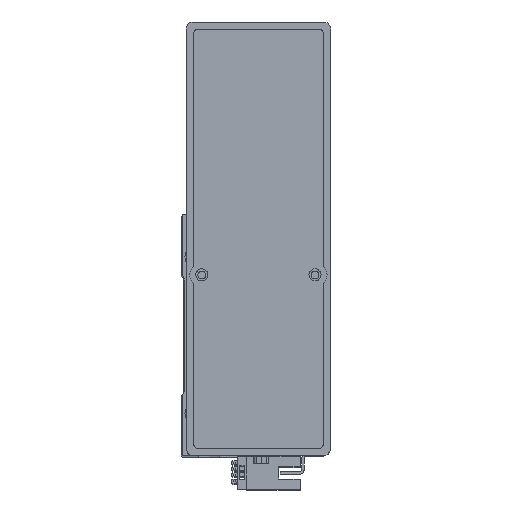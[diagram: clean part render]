
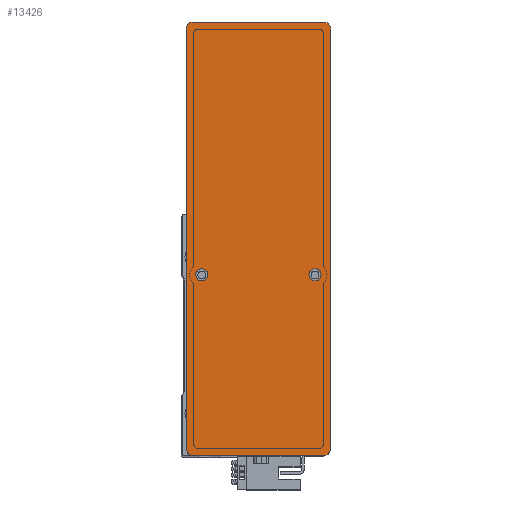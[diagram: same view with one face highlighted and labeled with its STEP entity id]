
A CAD part, top view. The second image highlights one B-rep face of the part: STEP entity #13426.
In plain terms, the highlighted planar face has unit normal (0, 0, 1) as drawn and (0, 0, -1) by its records, which use the part's own axes.
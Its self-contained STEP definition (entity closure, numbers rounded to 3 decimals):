
#407 = DIRECTION ( 'NONE',  ( 0., 0., -1. ) ) ;
#542 = ORIENTED_EDGE ( 'NONE', *, *, #7757, .T. ) ;
#697 = ORIENTED_EDGE ( 'NONE', *, *, #37375, .F. ) ;
#1241 = ORIENTED_EDGE ( 'NONE', *, *, #17682, .T. ) ;
#1278 = VERTEX_POINT ( 'NONE', #8689 ) ;
#1580 = LINE ( 'NONE', #23183, #33185 ) ;
#1634 = DIRECTION ( 'NONE',  ( 1., 0., 0. ) ) ;
#2087 = EDGE_CURVE ( 'NONE', #32759, #12666, #37272, .T. ) ;
#3986 = VERTEX_POINT ( 'NONE', #22451 ) ;
#4380 = ORIENTED_EDGE ( 'NONE', *, *, #8549, .F. ) ;
#5313 = VERTEX_POINT ( 'NONE', #18365 ) ;
#5511 = CIRCLE ( 'NONE', #6718, 3. ) ;
#5522 = CIRCLE ( 'NONE', #12447, 2.5 ) ;
#5657 = AXIS2_PLACEMENT_3D ( 'NONE', #11796, #17976, #39407 ) ;
#5842 = AXIS2_PLACEMENT_3D ( 'NONE', #36189, #17880, #39319 ) ;
#6167 = CARTESIAN_POINT ( 'NONE',  ( -15., 23.5, 0. ) ) ;
#6318 = AXIS2_PLACEMENT_3D ( 'NONE', #18179, #39588, #21230 ) ;
#6662 = EDGE_LOOP ( 'NONE', ( #697, #10089 ) ) ;
#6718 = AXIS2_PLACEMENT_3D ( 'NONE', #14204, #35607, #17275 ) ;
#6758 = VECTOR ( 'NONE', #14760, 1000. ) ;
#7222 = EDGE_CURVE ( 'NONE', #1278, #15143, #1580, .T. ) ;
#7757 = EDGE_CURVE ( 'NONE', #7857, #12770, #12104, .T. ) ;
#7826 = AXIS2_PLACEMENT_3D ( 'NONE', #27528, #9182, #30648 ) ;
#7833 = LINE ( 'NONE', #33987, #38529 ) ;
#7857 = VERTEX_POINT ( 'NONE', #13724 ) ;
#7959 = VERTEX_POINT ( 'NONE', #15046 ) ;
#8549 = EDGE_CURVE ( 'NONE', #5313, #22452, #34804, .T. ) ;
#8600 = EDGE_CURVE ( 'NONE', #28177, #15143, #20911, .T. ) ;
#8689 = CARTESIAN_POINT ( 'NONE',  ( 90., -27., 0. ) ) ;
#8986 = CARTESIAN_POINT ( 'NONE',  ( 90., 27., 0. ) ) ;
#9182 = DIRECTION ( 'NONE',  ( 0., 0., -1. ) ) ;
#9216 = DIRECTION ( 'NONE',  ( -1., 0., 0. ) ) ;
#9731 = EDGE_CURVE ( 'NONE', #27647, #7959, #14447, .T. ) ;
#9814 = ORIENTED_EDGE ( 'NONE', *, *, #24100, .F. ) ;
#10089 = ORIENTED_EDGE ( 'NONE', *, *, #9731, .F. ) ;
#10853 = CIRCLE ( 'NONE', #5842, 2.5 ) ;
#10939 = CARTESIAN_POINT ( 'NONE',  ( 87., 30., 0. ) ) ;
#11796 = CARTESIAN_POINT ( 'NONE',  ( 0., 0., 0. ) ) ;
#11909 = FACE_BOUND ( 'NONE', #22631, .T. ) ;
#12104 = CIRCLE ( 'NONE', #28726, 3. ) ;
#12447 = AXIS2_PLACEMENT_3D ( 'NONE', #16820, #38256, #19906 ) ;
#12666 = VERTEX_POINT ( 'NONE', #17470 ) ;
#12770 = VERTEX_POINT ( 'NONE', #20818 ) ;
#13426 = ADVANCED_FACE ( 'NONE', ( #11909, #37286, #27208 ), #30159, .F. ) ;
#13724 = CARTESIAN_POINT ( 'NONE',  ( -90., 27., 0. ) ) ;
#13841 = ORIENTED_EDGE ( 'NONE', *, *, #32598, .F. ) ;
#14204 = CARTESIAN_POINT ( 'NONE',  ( 87., -27., 0. ) ) ;
#14447 = CIRCLE ( 'NONE', #7826, 2.5 ) ;
#14760 = DIRECTION ( 'NONE',  ( 0., -1., 0. ) ) ;
#15046 = CARTESIAN_POINT ( 'NONE',  ( -17.5, -23.5, 0. ) ) ;
#15143 = VERTEX_POINT ( 'NONE', #8986 ) ;
#15436 = CARTESIAN_POINT ( 'NONE',  ( 90., 30., 0. ) ) ;
#15668 = ORIENTED_EDGE ( 'NONE', *, *, #7222, .F. ) ;
#16820 = CARTESIAN_POINT ( 'NONE',  ( -15., -23.5, 0. ) ) ;
#17275 = DIRECTION ( 'NONE',  ( 1., 0., 0. ) ) ;
#17306 = EDGE_CURVE ( 'NONE', #22452, #5313, #10853, .T. ) ;
#17470 = CARTESIAN_POINT ( 'NONE',  ( -90., -27., 0. ) ) ;
#17550 = CARTESIAN_POINT ( 'NONE',  ( -17.5, 23.5, 0. ) ) ;
#17682 = EDGE_CURVE ( 'NONE', #1278, #3986, #5511, .T. ) ;
#17880 = DIRECTION ( 'NONE',  ( 0., 0., -1. ) ) ;
#17976 = DIRECTION ( 'NONE',  ( 0., 0., 1. ) ) ;
#18005 = EDGE_LOOP ( 'NONE', ( #15668, #1241, #13841, #37649, #9814, #542, #36620, #30703 ) ) ;
#18179 = CARTESIAN_POINT ( 'NONE',  ( -87., -27., 0. ) ) ;
#18365 = CARTESIAN_POINT ( 'NONE',  ( -12.5, 23.5, 0. ) ) ;
#18508 = DIRECTION ( 'NONE',  ( -1., 0., 0. ) ) ;
#18756 = CARTESIAN_POINT ( 'NONE',  ( 87., 27., 0. ) ) ;
#18825 = AXIS2_PLACEMENT_3D ( 'NONE', #18756, #407, #21783 ) ;
#19906 = DIRECTION ( 'NONE',  ( -1., 0., 0. ) ) ;
#19951 = DIRECTION ( 'NONE',  ( 0., 0., -1. ) ) ;
#20818 = CARTESIAN_POINT ( 'NONE',  ( -87., 30., 0. ) ) ;
#20911 = CIRCLE ( 'NONE', #18825, 3. ) ;
#21230 = DIRECTION ( 'NONE',  ( 1., 0., 0. ) ) ;
#21783 = DIRECTION ( 'NONE',  ( 1., 0., 0. ) ) ;
#21841 = VECTOR ( 'NONE', #18508, 1000. ) ;
#22451 = CARTESIAN_POINT ( 'NONE',  ( 87., -30., 0. ) ) ;
#22452 = VERTEX_POINT ( 'NONE', #17550 ) ;
#22631 = EDGE_LOOP ( 'NONE', ( #25358, #4380 ) ) ;
#23183 = CARTESIAN_POINT ( 'NONE',  ( 90., -30., 0. ) ) ;
#23394 = CARTESIAN_POINT ( 'NONE',  ( -12.5, -23.5, 0. ) ) ;
#23748 = LINE ( 'NONE', #15436, #21841 ) ;
#24100 = EDGE_CURVE ( 'NONE', #7857, #12666, #30248, .T. ) ;
#25358 = ORIENTED_EDGE ( 'NONE', *, *, #17306, .F. ) ;
#26284 = DIRECTION ( 'NONE',  ( 0., 1., 0. ) ) ;
#27208 = FACE_OUTER_BOUND ( 'NONE', #18005, .T. ) ;
#27213 = EDGE_CURVE ( 'NONE', #28177, #12770, #23748, .T. ) ;
#27528 = CARTESIAN_POINT ( 'NONE',  ( -15., -23.5, 0. ) ) ;
#27555 = DIRECTION ( 'NONE',  ( 0., 0., -1. ) ) ;
#27647 = VERTEX_POINT ( 'NONE', #23394 ) ;
#28177 = VERTEX_POINT ( 'NONE', #10939 ) ;
#28726 = AXIS2_PLACEMENT_3D ( 'NONE', #38310, #19951, #1634 ) ;
#30159 = PLANE ( 'NONE',  #5657 ) ;
#30248 = LINE ( 'NONE', #32961, #6758 ) ;
#30648 = DIRECTION ( 'NONE',  ( -1., 0., 0. ) ) ;
#30703 = ORIENTED_EDGE ( 'NONE', *, *, #8600, .T. ) ;
#31439 = CARTESIAN_POINT ( 'NONE',  ( -87., -30., 0. ) ) ;
#32598 = EDGE_CURVE ( 'NONE', #32759, #3986, #7833, .T. ) ;
#32759 = VERTEX_POINT ( 'NONE', #31439 ) ;
#32961 = CARTESIAN_POINT ( 'NONE',  ( -90., -30., 0. ) ) ;
#33185 = VECTOR ( 'NONE', #26284, 1000. ) ;
#33949 = AXIS2_PLACEMENT_3D ( 'NONE', #6167, #27555, #9216 ) ;
#33987 = CARTESIAN_POINT ( 'NONE',  ( 90., -30., 0. ) ) ;
#34804 = CIRCLE ( 'NONE', #33949, 2.5 ) ;
#35607 = DIRECTION ( 'NONE',  ( 0., 0., -1. ) ) ;
#36189 = CARTESIAN_POINT ( 'NONE',  ( -15., 23.5, 0. ) ) ;
#36620 = ORIENTED_EDGE ( 'NONE', *, *, #27213, .F. ) ;
#37046 = DIRECTION ( 'NONE',  ( 1., 0., 0. ) ) ;
#37272 = CIRCLE ( 'NONE', #6318, 3. ) ;
#37286 = FACE_BOUND ( 'NONE', #6662, .T. ) ;
#37375 = EDGE_CURVE ( 'NONE', #7959, #27647, #5522, .T. ) ;
#37649 = ORIENTED_EDGE ( 'NONE', *, *, #2087, .T. ) ;
#38256 = DIRECTION ( 'NONE',  ( 0., 0., -1. ) ) ;
#38310 = CARTESIAN_POINT ( 'NONE',  ( -87., 27., 0. ) ) ;
#38529 = VECTOR ( 'NONE', #37046, 1000. ) ;
#39319 = DIRECTION ( 'NONE',  ( -1., 0., 0. ) ) ;
#39407 = DIRECTION ( 'NONE',  ( 1., 0., 0. ) ) ;
#39588 = DIRECTION ( 'NONE',  ( 0., 0., -1. ) ) ;
